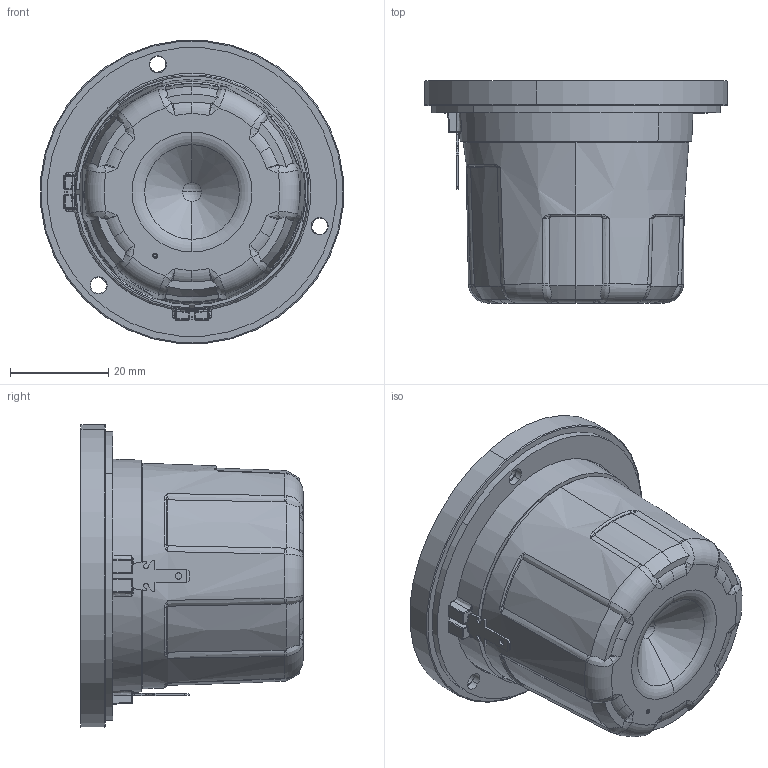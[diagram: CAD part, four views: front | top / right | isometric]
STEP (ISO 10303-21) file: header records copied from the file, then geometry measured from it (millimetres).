
FILE_DESCRIPTION (( 'STEP AP214' ), '1' );
FILE_NAME ('D3004-606200.STEP', '2024-04-08T08:29:15', ( '' ), ( '' ), 'SwSTEP 2.0', 'SolidWorks 2024', '' );
FILE_SCHEMA (( 'AUTOMOTIVE_DESIGN' ));
Length unit declared in the file: millimetre
Products named in the file (1): D3004-606200
Bounding box: 61.76 x 45.3 x 61.76 mm (x, y, z)
Volume: 75396.9 mm3; surface area: 15764.2 mm2
Topology: 3 solids, 5 shells, 574 faces, 1580 edges, 951 vertices
Faces by surface type: plane 174, cylinder 140, bspline 111, torus 89, cone 40, sphere 20
Entity records: 21287 total; most frequent: CARTESIAN_POINT 7705, ORIENTED_EDGE 3056, DIRECTION 2684, EDGE_CURVE 1528, AXIS2_PLACEMENT_3D 1086, VERTEX_POINT 951, CIRCLE 622, EDGE_LOOP 593
